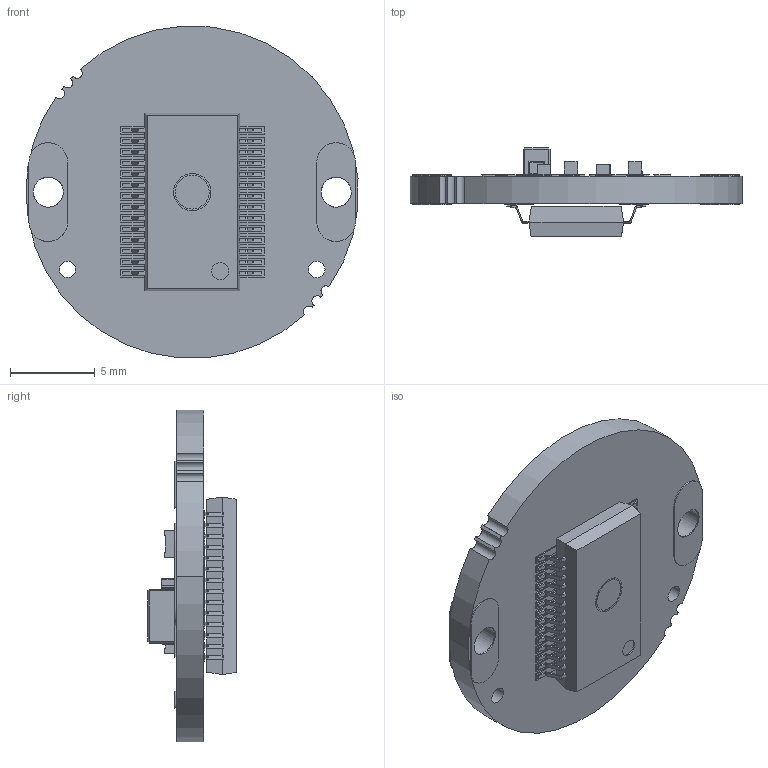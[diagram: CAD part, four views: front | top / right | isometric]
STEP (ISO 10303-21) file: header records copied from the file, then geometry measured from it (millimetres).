
FILE_DESCRIPTION (( 'STEP AP214' ), '1' );
FILE_NAME ('Module-RMB20V3_v3.STEP', '2013-08-28T08:44:55', ( '' ), ( '' ), 'SwSTEP 2.0', 'SolidWorks 2013', '' );
FILE_SCHEMA (( 'AUTOMOTIVE_DESIGN' ));
Length unit declared in the file: millimetre
Products named in the file (13): IC-SSOP28-AM4096-h1_86mm_Valor predeterminado; tantal-form-A; c0603h0_8; c0603; RMB20V3v3-1-PCB; 177161_669291__30000_0_0_0; 787402_472441__30000_0_0_0; RoundRectangular_98425_393701_393701__30000_0_0_0; 354331_236220__30000_0_0_0; RoundRectangular_70000_280000_1100000__30000_0_0_0; Round_900000_2300000__30000_700000_700000_0; Board-D20x1_6; Module-RMB20V3_v3
Assembly tree (74 placements, depth 3):
  Module-RMB20V3_v3
    RMB20V3v3-1-PCB
      Board-D20x1_6
      Round_900000_2300000__30000_700000_700000_0  x4
      RoundRectangular_70000_280000_1100000__30000_0_0_0  x4
      354331_236220__30000_0_0_0  x14
      RoundRectangular_98425_393701_393701__30000_0_0_0  x11
      787402_472441__30000_0_0_0  x2
      177161_669291__30000_0_0_0  x28
    c0603  x5
    c0603h0_8  x2
    tantal-form-A
    IC-SSOP28-AM4096-h1_86mm_Valor predeterminado
Bounding box: 19.63 x 5.23 x 19.61 mm (x, y, z)
Volume: 594.8 mm3; surface area: 1311.4 mm2
Topology: 102 solids, 102 shells, 1139 faces, 2728 edges, 1784 vertices
Faces by surface type: plane 817, cylinder 230, bspline 76, sphere 16
Entity records: 27182 total; most frequent: CARTESIAN_POINT 3861, DIRECTION 3488, ORIENTED_EDGE 3348, EDGE_CURVE 1674, VECTOR 1182, LINE 1182, AXIS2_PLACEMENT_3D 1153, VERTEX_POINT 1100
